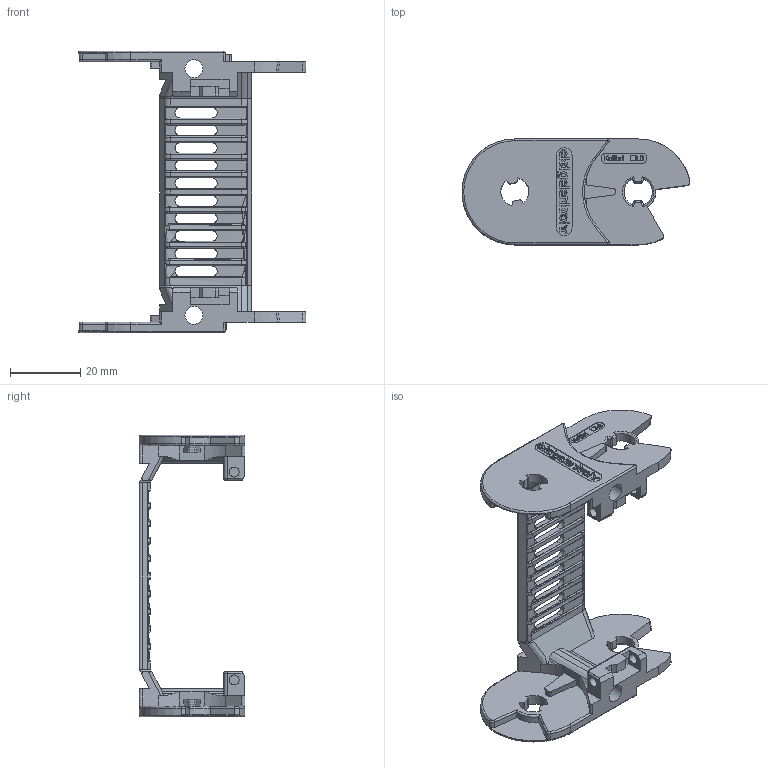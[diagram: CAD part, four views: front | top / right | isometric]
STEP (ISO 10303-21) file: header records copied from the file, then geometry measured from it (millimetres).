
FILE_DESCRIPTION((''),'2;1');
FILE_NAME('C:\Uebbing\PARAMETERKETTEN\KOLIBRI\Kol_30_080_0\Kol 30_080_0 Lasche ELTOLA.stp','2011-11-02T12:00:27',('Uebbing'),(''),'Autodesk Inventor 10','Autodesk Inventor 10','');
FILE_SCHEMA(('AUTOMOTIVE_DESIGN { 1 0 10303 214 1 1 1 1 }'));
Length unit declared in the file: millimetre
Products named in the file (1): Kol 30_080_0 Lasche ELTOLA
Bounding box: 64.71 x 30 x 80 mm (x, y, z)
Volume: 14762.9 mm3; surface area: 13671.9 mm2
Topology: 1 solids, 1 shells, 834 faces, 2246 edges, 1426 vertices
Faces by surface type: bspline 328, plane 305, cylinder 146, torus 38, sphere 11, cone 6
Full cylindrical faces by diameter (mm): 1.166 x1, 2.048 x1, 2.8 x2, 5.1 x1
Entity records: 31694 total; most frequent: CARTESIAN_POINT 11930, ORIENTED_EDGE 4468, DIRECTION 3576, EDGE_CURVE 2234, VERTEX_POINT 1436, VECTOR 1318, LINE 1318, AXIS2_PLACEMENT_3D 1129
